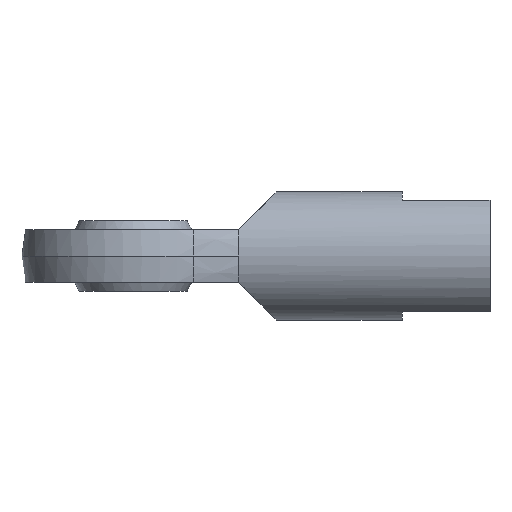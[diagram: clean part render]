
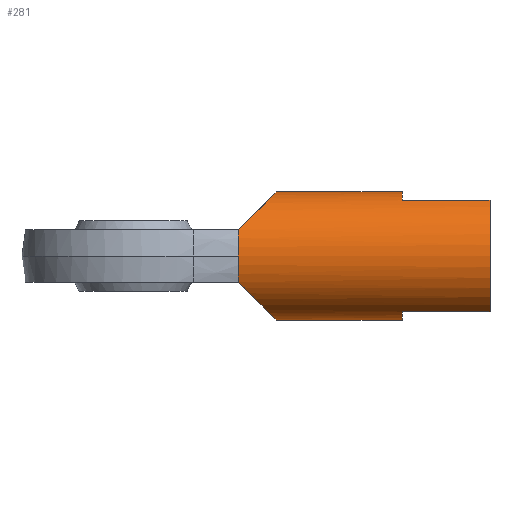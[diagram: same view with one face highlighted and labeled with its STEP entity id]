
A CAD part, front view. The second image highlights one B-rep face of the part: STEP entity #281.
In plain terms, the highlighted cylindrical face has radius 11 mm (diameter 22 mm), a partial arc.
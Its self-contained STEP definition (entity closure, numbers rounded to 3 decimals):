
#17 = ORIENTED_EDGE ( 'NONE', *, *, #637, .F. ) ;
#161 = VERTEX_POINT ( 'NONE', #1564 ) ;
#164 = VERTEX_POINT ( 'NONE', #1562 ) ;
#210 = EDGE_CURVE ( 'NONE', #211, #220, #1609, .T. ) ;
#211 = VERTEX_POINT ( 'NONE', #1605 ) ;
#220 = VERTEX_POINT ( 'NONE', #841 ) ;
#230 = EDGE_CURVE ( 'NONE', #161, #290, #834, .T. ) ;
#268 = VERTEX_POINT ( 'NONE', #720 ) ;
#269 = EDGE_CURVE ( 'NONE', #164, #268, #764, .T. ) ;
#275 = ORIENTED_EDGE ( 'NONE', *, *, #276, .T. ) ;
#276 = EDGE_CURVE ( 'NONE', #287, #211, #871, .T. ) ;
#277 = ORIENTED_EDGE ( 'NONE', *, *, #210, .T. ) ;
#278 = EDGE_CURVE ( 'NONE', #164, #220, #865, .T. ) ;
#279 = ORIENTED_EDGE ( 'NONE', *, *, #269, .T. ) ;
#280 = ORIENTED_EDGE ( 'NONE', *, *, #278, .F. ) ;
#281 = ADVANCED_FACE ( 'NONE', ( #867 ), #866, .T. ) ;
#284 = ORIENTED_EDGE ( 'NONE', *, *, #230, .F. ) ;
#285 = ORIENTED_EDGE ( 'NONE', *, *, #286, .F. ) ;
#286 = EDGE_CURVE ( 'NONE', #287, #161, #696, .T. ) ;
#287 = VERTEX_POINT ( 'NONE', #697 ) ;
#289 = EDGE_LOOP ( 'NONE', ( #284, #285, #275, #277, #280, #279, #17, #668, #606, #666, #616 ) ) ;
#290 = VERTEX_POINT ( 'NONE', #789 ) ;
#606 = ORIENTED_EDGE ( 'NONE', *, *, #617, .F. ) ;
#607 = VERTEX_POINT ( 'NONE', #1078 ) ;
#613 = EDGE_CURVE ( 'NONE', #290, #664, #1067, .T. ) ;
#615 = EDGE_CURVE ( 'NONE', #664, #618, #1062, .T. ) ;
#616 = ORIENTED_EDGE ( 'NONE', *, *, #613, .F. ) ;
#617 = EDGE_CURVE ( 'NONE', #618, #607, #1058, .T. ) ;
#618 = VERTEX_POINT ( 'NONE', #1024 ) ;
#635 = VERTEX_POINT ( 'NONE', #991 ) ;
#637 = EDGE_CURVE ( 'NONE', #635, #268, #987, .T. ) ;
#664 = VERTEX_POINT ( 'NONE', #918 ) ;
#665 = EDGE_CURVE ( 'NONE', #607, #635, #916, .T. ) ;
#666 = ORIENTED_EDGE ( 'NONE', *, *, #615, .F. ) ;
#668 = ORIENTED_EDGE ( 'NONE', *, *, #665, .F. ) ;
#696 =( BOUNDED_CURVE ( )  B_SPLINE_CURVE ( 3, ( #793, #792, #791, #790 ),
 .UNSPECIFIED., .F., .T. ) 
 B_SPLINE_CURVE_WITH_KNOTS ( ( 4, 4 ),
 ( 5.134, 6.283 ),
 .UNSPECIFIED. ) 
 CURVE ( )  GEOMETRIC_REPRESENTATION_ITEM ( )  RATIONAL_B_SPLINE_CURVE ( ( 1., 0.893, 0.893, 1. ) ) 
 REPRESENTATION_ITEM ( '' )  );
#697 = CARTESIAN_POINT ( 'NONE',  ( 18., -10.037, 4.5 ) ) ;
#705 = DIRECTION ( 'NONE',  ( 0., 0., -1. ) ) ;
#706 = DIRECTION ( 'NONE',  ( 1., 0., 0. ) ) ;
#707 = CARTESIAN_POINT ( 'NONE',  ( 18., 0., 0. ) ) ;
#708 = AXIS2_PLACEMENT_3D ( 'NONE', #707, #706, #705 ) ;
#709 = CARTESIAN_POINT ( 'NONE',  ( 18., -10.037, -4.5 ) ) ;
#710 = CARTESIAN_POINT ( 'NONE',  ( 22.073, -8.211, -8.573 ) ) ;
#711 = CARTESIAN_POINT ( 'NONE',  ( 24.5, -4.464, -11. ) ) ;
#712 = CARTESIAN_POINT ( 'NONE',  ( 24.5, 0., -11. ) ) ;
#720 = CARTESIAN_POINT ( 'NONE',  ( 46., 0., -11. ) ) ;
#761 = DIRECTION ( 'NONE',  ( 1., 0., 0. ) ) ;
#762 = VECTOR ( 'NONE', #761, 1000. ) ;
#763 = CARTESIAN_POINT ( 'NONE',  ( 18., 0., -11. ) ) ;
#764 = LINE ( 'NONE', #763, #762 ) ;
#789 = CARTESIAN_POINT ( 'NONE',  ( 46., 0., 11. ) ) ;
#790 = CARTESIAN_POINT ( 'NONE',  ( 24.5, 0., 11. ) ) ;
#791 = CARTESIAN_POINT ( 'NONE',  ( 24.5, -4.464, 11. ) ) ;
#792 = CARTESIAN_POINT ( 'NONE',  ( 22.073, -8.211, 8.573 ) ) ;
#793 = CARTESIAN_POINT ( 'NONE',  ( 18., -10.037, 4.5 ) ) ;
#831 = DIRECTION ( 'NONE',  ( 1., 0., 0. ) ) ;
#832 = VECTOR ( 'NONE', #831, 1000. ) ;
#833 = CARTESIAN_POINT ( 'NONE',  ( 18., 0., 11. ) ) ;
#834 = LINE ( 'NONE', #833, #832 ) ;
#841 = CARTESIAN_POINT ( 'NONE',  ( 18., -10.037, -4.5 ) ) ;
#865 =( BOUNDED_CURVE ( )  B_SPLINE_CURVE ( 3, ( #712, #711, #710, #709 ),
 .UNSPECIFIED., .F., .T. ) 
 B_SPLINE_CURVE_WITH_KNOTS ( ( 4, 4 ),
 ( 0., 1.149 ),
 .UNSPECIFIED. ) 
 CURVE ( )  GEOMETRIC_REPRESENTATION_ITEM ( )  RATIONAL_B_SPLINE_CURVE ( ( 1., 0.893, 0.893, 1. ) ) 
 REPRESENTATION_ITEM ( '' )  );
#866 = CYLINDRICAL_SURFACE ( 'NONE', #708, 11. ) ;
#867 = FACE_OUTER_BOUND ( 'NONE', #289, .T. ) ;
#868 = DIRECTION ( 'NONE',  ( 0., 1., 0. ) ) ;
#869 = DIRECTION ( 'NONE',  ( 1., 0., 0. ) ) ;
#870 = AXIS2_PLACEMENT_3D ( 'NONE', #875, #869, #868 ) ;
#871 = CIRCLE ( 'NONE', #870, 11. ) ;
#875 = CARTESIAN_POINT ( 'NONE',  ( 18., 0., 0. ) ) ;
#913 = DIRECTION ( 'NONE',  ( -1., 0., 0. ) ) ;
#914 = VECTOR ( 'NONE', #913, 1000. ) ;
#915 = CARTESIAN_POINT ( 'NONE',  ( 18., -5.545, -9.5 ) ) ;
#916 = LINE ( 'NONE', #915, #914 ) ;
#918 = CARTESIAN_POINT ( 'NONE',  ( 46., -5.545, 9.5 ) ) ;
#983 = DIRECTION ( 'NONE',  ( 0., 0., 1. ) ) ;
#984 = DIRECTION ( 'NONE',  ( 1., 0., 0. ) ) ;
#985 = CARTESIAN_POINT ( 'NONE',  ( 46., 0., 0. ) ) ;
#986 = AXIS2_PLACEMENT_3D ( 'NONE', #985, #984, #983 ) ;
#987 = CIRCLE ( 'NONE', #986, 11. ) ;
#991 = CARTESIAN_POINT ( 'NONE',  ( 46., -5.545, -9.5 ) ) ;
#1024 = CARTESIAN_POINT ( 'NONE',  ( 61., -5.545, 9.5 ) ) ;
#1054 = DIRECTION ( 'NONE',  ( 0., 0., -1. ) ) ;
#1055 = DIRECTION ( 'NONE',  ( 1., 0., 0. ) ) ;
#1056 = CARTESIAN_POINT ( 'NONE',  ( 61., 0., 0. ) ) ;
#1057 = AXIS2_PLACEMENT_3D ( 'NONE', #1056, #1055, #1054 ) ;
#1058 = CIRCLE ( 'NONE', #1057, 11. ) ;
#1059 = DIRECTION ( 'NONE',  ( 1., 0., 0. ) ) ;
#1060 = VECTOR ( 'NONE', #1059, 1000. ) ;
#1061 = CARTESIAN_POINT ( 'NONE',  ( 18., -5.545, 9.5 ) ) ;
#1062 = LINE ( 'NONE', #1061, #1060 ) ;
#1063 = DIRECTION ( 'NONE',  ( 0., 0., 1. ) ) ;
#1064 = DIRECTION ( 'NONE',  ( 1., 0., 0. ) ) ;
#1065 = CARTESIAN_POINT ( 'NONE',  ( 46., 0., 0. ) ) ;
#1066 = AXIS2_PLACEMENT_3D ( 'NONE', #1065, #1064, #1063 ) ;
#1067 = CIRCLE ( 'NONE', #1066, 11. ) ;
#1078 = CARTESIAN_POINT ( 'NONE',  ( 61., -5.545, -9.5 ) ) ;
#1562 = CARTESIAN_POINT ( 'NONE',  ( 24.5, 0., -11. ) ) ;
#1564 = CARTESIAN_POINT ( 'NONE',  ( 24.5, 0., 11. ) ) ;
#1605 = CARTESIAN_POINT ( 'NONE',  ( 18., -11., 0. ) ) ;
#1606 = DIRECTION ( 'NONE',  ( 0., 1., 0. ) ) ;
#1607 = DIRECTION ( 'NONE',  ( 1., 0., 0. ) ) ;
#1608 = AXIS2_PLACEMENT_3D ( 'NONE', #1614, #1607, #1606 ) ;
#1609 = CIRCLE ( 'NONE', #1608, 11. ) ;
#1614 = CARTESIAN_POINT ( 'NONE',  ( 18., 0., 0. ) ) ;
